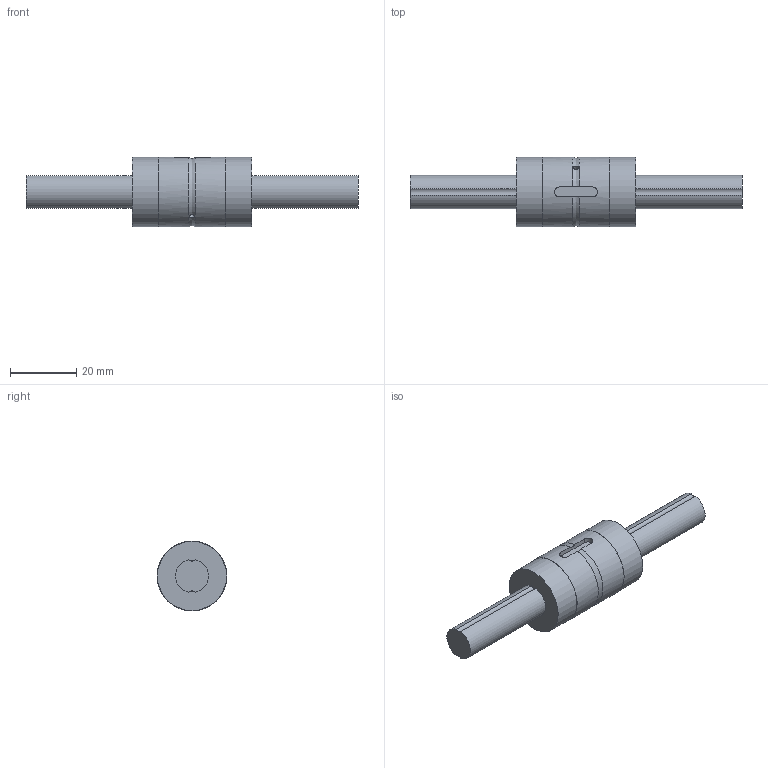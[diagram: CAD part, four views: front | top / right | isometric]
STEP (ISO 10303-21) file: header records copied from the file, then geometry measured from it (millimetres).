
FILE_DESCRIPTION((''),'2;1');
FILE_NAME('C:\Documents and Settings\土屋\My Documents\土屋移動用フォルダ\製品 (図面)\カタログ用3D\ボールスプライン\BSP\BSP10.stp','2015-02-23T13:26:35',('y'),(''),'Autodesk Inventor 11','Autodesk Inventor 11','');
FILE_SCHEMA(('AUTOMOTIVE_DESIGN { 1 0 10303 214 1 1 1 1 }'));
Length unit declared in the file: millimetre
Products named in the file (3): BSP10; BSP10軸; BSP10ナット
Assembly tree (2 placements, depth 2):
  BSP10
    BSP10軸
    BSP10ナット
Bounding box: 100 x 21 x 21 mm (x, y, z)
Volume: 17217.5 mm3; surface area: 7469 mm2
Topology: 2 solids, 2 shells, 28 faces, 62 edges, 42 vertices
Faces by surface type: cylinder 15, plane 10, bspline 3
Full cylindrical faces by diameter (mm): 1.5 x1, 20.8 x2, 21 x2
Entity records: 1073 total; most frequent: CARTESIAN_POINT 405, DIRECTION 134, ORIENTED_EDGE 108, AXIS2_PLACEMENT_3D 58, EDGE_CURVE 54, VERTEX_POINT 40, EDGE_LOOP 40, CIRCLE 28
